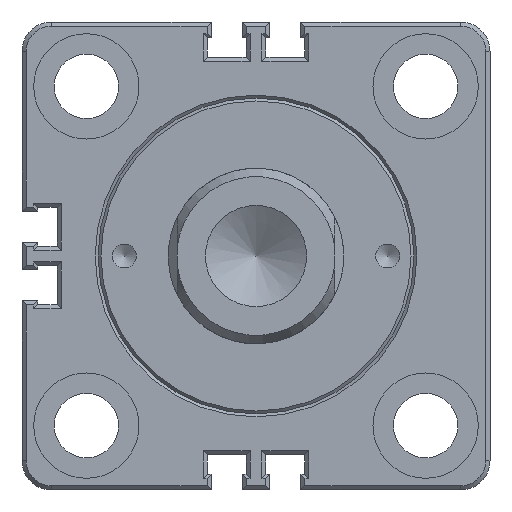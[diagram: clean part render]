
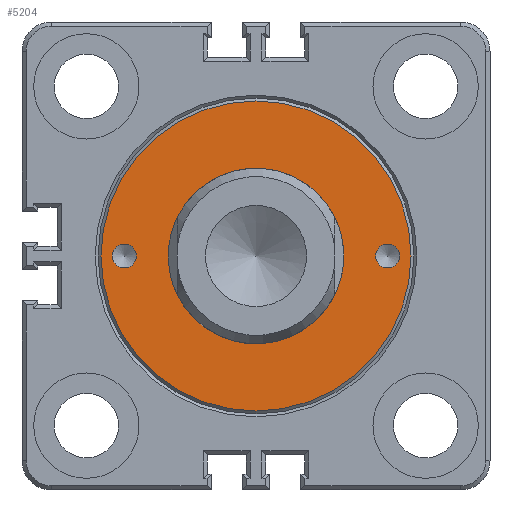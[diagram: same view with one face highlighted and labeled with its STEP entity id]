
A CAD part, front view. The second image highlights one B-rep face of the part: STEP entity #5204.
In plain terms, the highlighted planar face has unit normal (0, -1, 0).
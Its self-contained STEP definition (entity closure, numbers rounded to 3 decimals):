
#977=ORIENTED_EDGE('',*,*,#1932,.T.);
#978=ORIENTED_EDGE('',*,*,#1931,.F.);
#979=ORIENTED_EDGE('',*,*,#1930,.T.);
#980=ORIENTED_EDGE('',*,*,#1945,.T.);
#1930=EDGE_CURVE('',#2427,#2427,#2729,.T.);
#1931=EDGE_CURVE('',#2428,#2428,#2730,.T.);
#1932=EDGE_CURVE('',#2429,#2429,#2731,.T.);
#1945=EDGE_CURVE('',#2436,#2436,#2732,.T.);
#2427=VERTEX_POINT('',#6800);
#2428=VERTEX_POINT('',#6803);
#2429=VERTEX_POINT('',#6806);
#2436=VERTEX_POINT('',#6941);
#2729=CIRCLE('',#5454,2.05);
#2730=CIRCLE('',#5456,15.);
#2731=CIRCLE('',#5458,2.05);
#2732=CIRCLE('',#5460,26.5);
#2816=EDGE_LOOP('',(#977));
#2817=EDGE_LOOP('',(#978));
#2818=EDGE_LOOP('',(#979));
#2819=EDGE_LOOP('',(#980));
#3102=FACE_BOUND('',#2816,.T.);
#3103=FACE_BOUND('',#2817,.T.);
#3104=FACE_BOUND('',#2818,.T.);
#3105=FACE_BOUND('',#2819,.T.);
#3366=PLANE('',#5459);
#5204=ADVANCED_FACE('',(#3102,#3103,#3104,#3105),#3366,.T.);
#5454=AXIS2_PLACEMENT_3D('',#6799,#5796,#5797);
#5456=AXIS2_PLACEMENT_3D('',#6802,#5800,#5801);
#5458=AXIS2_PLACEMENT_3D('',#6805,#5804,#5805);
#5459=AXIS2_PLACEMENT_3D('',#6939,#5812,#5813);
#5460=AXIS2_PLACEMENT_3D('',#6940,#5814,#5815);
#5796=DIRECTION('',(0.,1.,0.));
#5797=DIRECTION('',(0.,0.,-1.));
#5800=DIRECTION('',(0.,-1.,0.));
#5801=DIRECTION('',(1.,0.,0.));
#5804=DIRECTION('',(0.,1.,0.));
#5805=DIRECTION('',(0.,0.,-1.));
#5812=DIRECTION('',(0.,-1.,0.));
#5813=DIRECTION('',(1.,0.,0.));
#5814=DIRECTION('',(0.,-1.,0.));
#5815=DIRECTION('',(0.,0.,-1.));
#6799=CARTESIAN_POINT('',(-22.5,0.,0.));
#6800=CARTESIAN_POINT('',(-22.5,0.,-2.05));
#6802=CARTESIAN_POINT('',(0.,0.,0.));
#6803=CARTESIAN_POINT('',(15.,0.,0.));
#6805=CARTESIAN_POINT('',(22.5,0.,0.));
#6806=CARTESIAN_POINT('',(22.5,0.,-2.05));
#6939=CARTESIAN_POINT('',(-35.,0.,35.));
#6940=CARTESIAN_POINT('',(0.,0.,0.));
#6941=CARTESIAN_POINT('',(0.,0.,-26.5));
